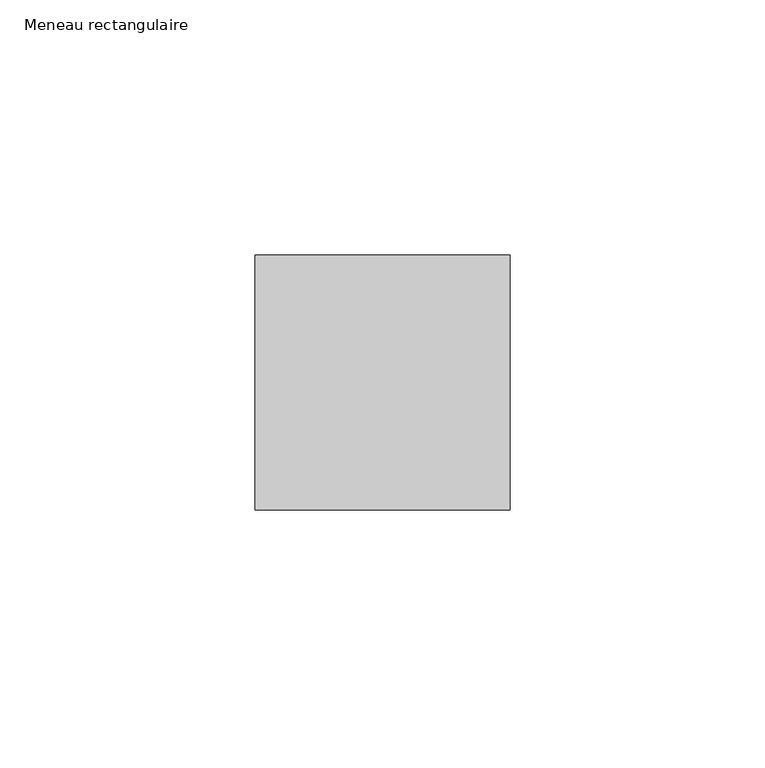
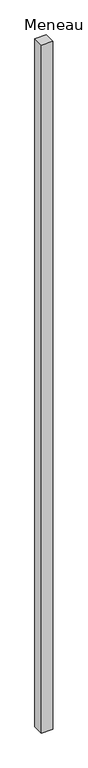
"""IFC4 building model written with IfcOpenShell, lengths in millimetres: member geometry, Meneau rectangulaire : 5x5cm aluminium laqué gris foncé."""

from ifc_helpers import new_model, si_unit, frame, origin, place, context, project, spatial, polyline, outline, extrude, source, transform, mapped, element, save


def meneau_rectangulaire_8d5e7e53(model_context):
    return source(origin(), model_context, "Body", "SweptSolid", [
        extrude(outline(polyline([(25.0, 25.0), (25.0, -25.0), (-25.0, -25.0), (-25.0, 25.0), (25.0, 25.0)])), frame((0.0, 0.0, -3219.7903449), z_axis=(0.0, 0.0, 1.0), x_axis=(1.0, 0.0, 0.0)), (0.0, 0.0, 1.0), 3219.7903449),
    ])


if __name__ == "__main__":
    model = new_model("IFC4")
    model_context = context("Model", 3, world=origin())
    ifc_project = project(units=[si_unit("LENGTHUNIT", "METRE", prefix="MILLI")], contexts=[model_context])
    site = spatial("IfcSite", under=ifc_project)
    building = spatial("IfcBuilding", under=site)
    placement = place(None, origin())
    meneau_rectangulaire_shape = meneau_rectangulaire_8d5e7e53(model_context)
    element("IfcMember", 1, ObjectType="Meneau rectangulaire : 5x5cm aluminium laqué gris foncé", at=placement, inside=building, context=model_context, shape_type="MappedRepresentation", body=[
        mapped(meneau_rectangulaire_shape, transform((0.0, 0.0, 0.0), x_axis=(1.0, 0.0, 0.0), y_axis=(0.0, 1.0, 0.0), z_axis=(0.0, 0.0, 1.0))),
    ])
    save(model, "model.ifc")
